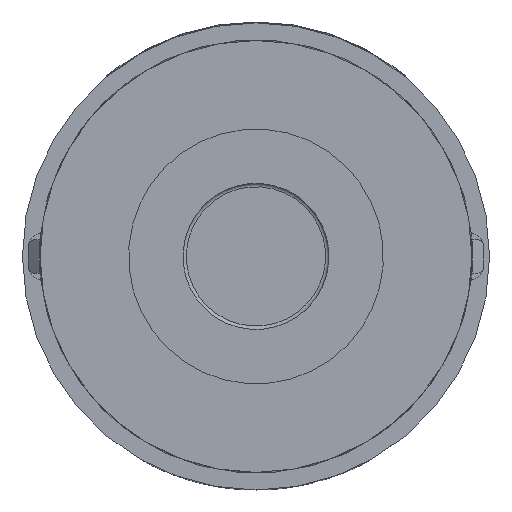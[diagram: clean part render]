
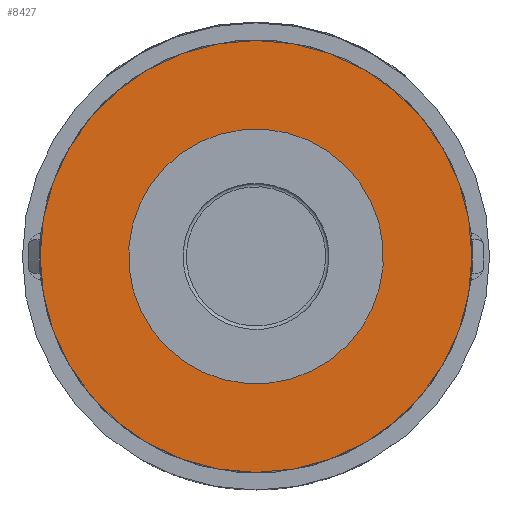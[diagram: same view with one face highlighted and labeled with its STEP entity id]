
A CAD part, front view. The second image highlights one B-rep face of the part: STEP entity #8427.
In plain terms, the highlighted planar face has unit normal (0, -1, 0).
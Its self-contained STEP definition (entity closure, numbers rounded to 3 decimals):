
#191=FACE_BOUND('',#1100,.T.);
#334=PLANE('',#9076);
#618=FACE_OUTER_BOUND('',#1099,.T.);
#1099=EDGE_LOOP('',(#6031));
#1100=EDGE_LOOP('',(#6032));
#1634=CIRCLE('',#9070,6.35);
#1639=CIRCLE('',#9077,25.425);
#3574=VERTEX_POINT('',#12934);
#3579=VERTEX_POINT('',#12947);
#4497=EDGE_CURVE('',#3574,#3574,#1634,.T.);
#4503=EDGE_CURVE('',#3579,#3579,#1639,.T.);
#6031=ORIENTED_EDGE('',*,*,#4503,.F.);
#6032=ORIENTED_EDGE('',*,*,#4497,.F.);
#8427=ADVANCED_FACE('',(#618,#191),#334,.T.);
#9070=AXIS2_PLACEMENT_3D('',#12935,#10313,#10314);
#9076=AXIS2_PLACEMENT_3D('',#12946,#10326,#10327);
#9077=AXIS2_PLACEMENT_3D('',#12948,#10328,#10329);
#10313=DIRECTION('center_axis',(0.,-1.,0.));
#10314=DIRECTION('ref_axis',(-1.,0.,0.));
#10326=DIRECTION('center_axis',(0.,-1.,0.));
#10327=DIRECTION('ref_axis',(1.,0.,0.));
#10328=DIRECTION('center_axis',(0.,1.,0.));
#10329=DIRECTION('ref_axis',(0.,0.,
-1.));
#12934=CARTESIAN_POINT('',(42.905,86.568,-26.828));
#12935=CARTESIAN_POINT('Origin',(36.555,86.568,-26.828));
#12946=CARTESIAN_POINT('Origin',(36.555,86.568,-42.74));
#12947=CARTESIAN_POINT('',(36.555,86.568,-1.403));
#12948=CARTESIAN_POINT('Origin',(36.555,86.568,-26.828));
